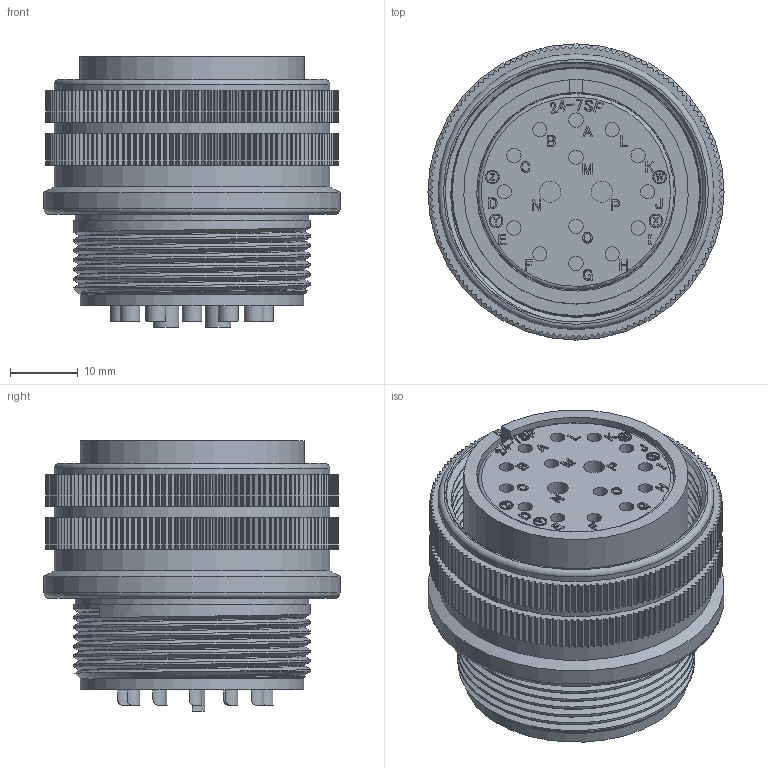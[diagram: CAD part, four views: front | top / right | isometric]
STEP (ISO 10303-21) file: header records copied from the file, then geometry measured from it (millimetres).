
FILE_DESCRIPTION (( 'STEP AP203' ), '1' );
FILE_NAME ('DMS3106A24-7S(D190).STEP', '2021-03-22T01:47:12', ( '' ), ( '' ), 'SwSTEP 2.0', 'SolidWorks 2018', '' );
FILE_SCHEMA (( 'CONFIG_CONTROL_DESIGN' ));
Length unit declared in the file: millimetre
Products named in the file (1): DMS3106A24-7S(D190)
Bounding box: 43.58 x 43.58 x 39.75 mm (x, y, z)
Volume: 35226.7 mm3; surface area: 21404.5 mm2
Topology: 1 solids, 1 shells, 2919 faces, 8341 edges, 5562 vertices
Faces by surface type: plane 1318, cylinder 1309, bspline 272, torus 17, cone 3
Full cylindrical faces by diameter (mm): 1.7 x4, 2 x4, 2.11 x14, 2.85 x2, 3.1 x2, 3.79 x2, 3.9 x2, 26.21 x1, 28.85 x1, 29.24 x1, 30.75 x1, 32.9 x1, 34.41 x1, 34.88 x6, 35 x1, 36.42 x1, 36.65 x1, 37.16 x1, 40.59 x3, 43.58 x1
Entity records: 107304 total; most frequent: CARTESIAN_POINT 31163, ORIENTED_EDGE 16502, DIRECTION 15377, EDGE_CURVE 8251, VERTEX_POINT 5527, AXIS2_PLACEMENT_3D 5212, VECTOR 4953, LINE 4953
